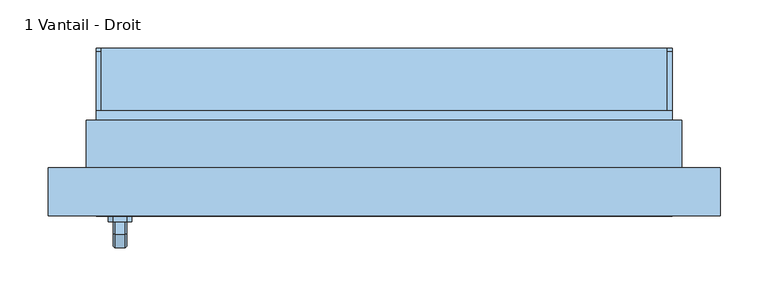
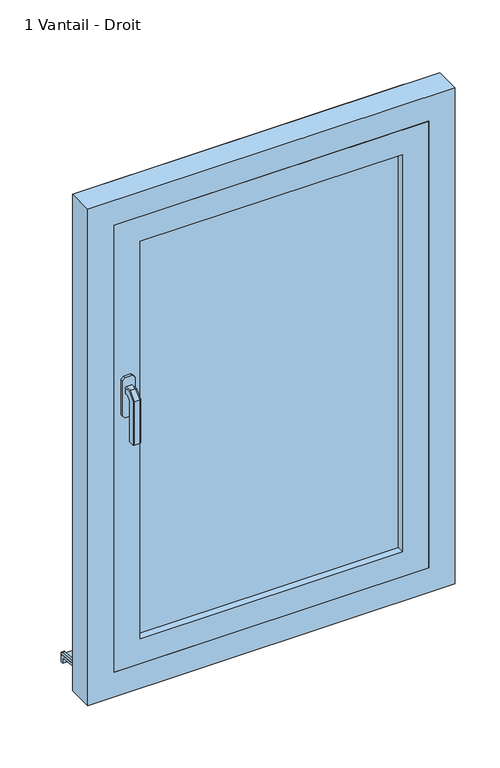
"""IFC4 building model written with IfcOpenShell, lengths in millimetres: window geometry, 1 Vantail - Droit : 0.60 m x 0.95 m - Appui en aluminium."""

from ifc_helpers import new_model, si_unit, point, frame, frame_2d, origin, place, context, project, spatial, polyline, circle_curve, trimmed, segment, composite_curve, outline, extrude, faceted_brep, source, transform, mapped, element, save


def window_1_vantail_droit_98c18ad5(model_context):
    return source(origin(), model_context, "Body", "SolidModel", [
        faceted_brep([(-269.3539903, -86.0, 1422.0339292), (-267.9660708, -86.0, 1420.6460097), (-267.9660708, -86.0, 1409.3323012), (-269.3323012, -86.0, 1407.9660708), (-280.6676988, -86.0, 1407.9660708), (-282.0339292, -86.0, 1409.3323012), (-282.0339292, -86.0, 1420.6460097), (-280.6460097, -86.0, 1422.0339292), (-269.3539903, -98.9135489, 1422.0339292), (-267.9660708, -98.3386538, 1420.6460097), (-267.9660708, -111.6460097, 1407.3386538), (-267.9660708, -111.6460097, 1320.0), (-267.9660708, -100.3323012, 1320.0), (-267.9660708, -100.3323012, 1402.6523623), (-267.9660708, -93.6523623, 1409.3323012), (-269.3323012, -93.0864511, 1407.9660708), (-280.6676988, -93.0864511, 1407.9660708), (-282.0339292, -93.6523623, 1409.3323012), (-282.0339292, -100.3323012, 1402.6523623), (-282.0339292, -100.3323012, 1320.0), (-282.0339292, -111.6460097, 1320.0), (-282.0339292, -111.6460097, 1407.3386538), (-282.0339292, -98.3386538, 1420.6460097), (-280.6460097, -98.9135489, 1422.0339292), (-269.3539903, -113.0339292, 1407.9135489), (-269.3323012, -98.9660708, 1402.0864511), (-280.6676988, -98.9660708, 1402.0864511), (-280.6460097, -113.0339292, 1407.9135489), (-269.3539903, -113.0339292, 1320.0), (-280.6460097, -113.0339292, 1320.0), (-280.6676988, -98.9660708, 1320.0), (-269.3323012, -98.9660708, 1320.0)], [[[0, 1, 2, 3, 4, 5, 6, 7]], [[1, 0, 8, 9]], [[2, 1, 9, 10, 11, 12, 13, 14]], [[3, 2, 14, 15]], [[4, 3, 15, 16]], [[5, 4, 16, 17]], [[6, 5, 17, 18, 19, 20, 21, 22]], [[7, 6, 22, 23]], [[0, 7, 23, 8]], [[9, 8, 24, 10]], [[15, 14, 13, 25]], [[16, 15, 25, 26]], [[17, 16, 26, 18]], [[23, 22, 21, 27]], [[8, 23, 27, 24]], [[28, 29, 20, 19, 30, 31, 12, 11]], [[10, 24, 28, 11]], [[25, 13, 12, 31]], [[26, 25, 31, 30]], [[18, 26, 30, 19]], [[27, 21, 20, 29]], [[24, 27, 29, 28]]]),
        extrude(outline(polyline([(1440.0, -268.0), (1440.0, -282.0), (1435.0, -287.0), (1365.0, -287.0), (1360.0, -282.0), (1360.0, -268.0), (1365.0, -263.0), (1435.0, -263.0), (1440.0, -268.0)])), frame((0.0, -86.0, 0.0), z_axis=(0.0, 1.0, 0.0), x_axis=(0.0, 0.0, 1.0)), (0.0, 0.0, 1.0), 6.0),
        extrude(outline(polyline([(95.0, 780.2703094), (95.0, 764.7145929), (90.0, 765.2401141), (90.0, 775.5406188), (0.0, 785.0), (0.0, 800.0), (5.0, 800.0), (5.0, 789.7296906), (95.0, 780.2703094)])), frame((-300.0, 0.0, 0.0), z_axis=(1.0, 0.0, 0.0), x_axis=(0.0, 1.0, 0.0)), (0.0, 0.0, 1.0), 600.0),
        extrude(outline(composite_curve([segment(polyline([(95.0, 780.2703094), (5.0, 789.7296906), (5.0, 794.757232), (91.4181139, 785.6743222)]), True, "CONTINUOUS"), segment(trimmed(circle_curve(frame_2d((91.0, 781.6962346)), 4.0), [point((91.4181139, 785.6743222))], [point((95.0, 781.6962346))], False, "CARTESIAN"), True, "CONTINUOUS"), segment(polyline([(95.0, 781.6962346), (95.0, 780.2703094)]), True, "CONTINUOUS")], self_intersect=False)), frame((-300.0, 0.0, 0.0), z_axis=(1.0, 0.0, 0.0), x_axis=(0.0, 1.0, 0.0)), (0.0, 0.0, 1.0), 5.0),
        extrude(outline(composite_curve([segment(polyline([(95.0, 780.2703094), (5.0, 789.7296906), (5.0, 794.757232), (91.4181139, 785.6743222)]), True, "CONTINUOUS"), segment(trimmed(circle_curve(frame_2d((91.0, 781.6962346)), 4.0), [point((91.4181139, 785.6743222))], [point((95.0, 781.6962346))], False, "CARTESIAN"), True, "CONTINUOUS"), segment(polyline([(95.0, 781.6962346), (95.0, 780.2703094)]), True, "CONTINUOUS")], self_intersect=False)), frame((295.0, 0.0, 0.0), z_axis=(1.0, 0.0, 0.0), x_axis=(0.0, 1.0, 0.0)), (0.0, 0.0, 1.0), 5.0),
        extrude(outline(polyline([(-250.0, -54.0), (250.0, -54.0), (250.0, -66.0), (-250.0, -66.0), (-250.0, -54.0)])), frame((0.0, 0.0, 900.0), z_axis=(0.0, 0.0, 1.0), x_axis=(1.0, 0.0, 0.0)), (0.0, 0.0, 1.0), 800.0),
        extrude(outline(polyline([(850.0, 300.0), (1750.0, 300.0), (1750.0, -300.0), (850.0, -300.0), (850.0, 300.0)]), holes=[polyline([(900.0, -250.0), (1700.0, -250.0), (1700.0, 250.0), (900.0, 250.0), (900.0, -250.0)])]), frame((0.0, -80.0, 0.0), z_axis=(0.0, 1.0, 0.0), x_axis=(0.0, 0.0, 1.0)), (0.0, 0.0, 1.0), 40.0),
        faceted_brep([(-350.0, -80.0, 800.0), (-350.0, -30.0, 800.0), (-300.0, -30.0, 800.0), (-300.0, 20.0, 800.0), (300.0, 20.0, 800.0), (300.0, -30.0, 800.0), (350.0, -30.0, 800.0), (350.0, -80.0, 800.0), (-350.0, -80.0, 1800.0), (-350.0, -30.0, 1800.0), (350.0, -30.0, 1800.0), (300.0, -30.0, 839.3761425), (-300.0, -30.0, 839.3761425), (-285.0, -30.0, 1735.0), (-285.0, -30.0, 865.0), (285.0, -30.0, 865.0), (285.0, -30.0, 1735.0), (-300.0, 30.0, 823.2991909), (-300.0, 30.0, 795.0), (-300.0, 20.0, 795.0), (300.0, 20.0, 795.0), (300.0, 30.0, 795.0), (300.0, 30.0, 823.2991909), (350.0, -80.0, 1800.0), (300.0, -80.0, 1750.0), (300.0, -80.0, 850.0), (-300.0, -80.0, 850.0), (-300.0, -80.0, 1750.0), (-285.0, -40.0, 1735.0), (-285.0, -40.0, 865.0), (285.0, -40.0, 865.0), (285.0, -40.0, 1735.0), (300.0, -40.0, 1750.0), (-300.0, -40.0, 1750.0), (-300.0, -40.0, 850.0), (300.0, -40.0, 850.0)], [[[0, 1, 2, 3, 4, 5, 6, 7]], [[1, 0, 8, 9]], [[1, 9, 10, 6, 5, 11, 12, 2], [13, 14, 15, 16]], [[12, 17, 18, 19, 3, 2]], [[3, 19, 20, 4]], [[4, 20, 21, 22, 11, 5]], [[6, 10, 23, 7]], [[0, 7, 23, 8], [24, 25, 26, 27]], [[13, 28, 29, 14]], [[29, 30, 15, 14]], [[31, 16, 15, 30]], [[17, 12, 11, 22]], [[32, 33, 34, 35], [28, 31, 30, 29]], [[34, 33, 27, 26]], [[26, 25, 35, 34]], [[24, 32, 35, 25]], [[18, 17, 22, 21]], [[19, 18, 21, 20]], [[13, 16, 31, 28]], [[33, 32, 24, 27]], [[10, 9, 8, 23]]]),
        extrude(outline(polyline([(800.0, -310.0), (800.0, -300.0), (1750.0, -300.0), (1750.0, 300.0), (800.0, 300.0), (800.0, 310.0), (1760.0, 310.0), (1760.0, -310.0), (800.0, -310.0)])), frame((0.0, -30.0, 0.0), z_axis=(0.0, 1.0, 0.0), x_axis=(0.0, 0.0, 1.0)), (0.0, 0.0, 1.0), 50.0),
    ])


if __name__ == "__main__":
    model = new_model("IFC4")
    model_context = context("Model", 3, world=origin())
    ifc_project = project(units=[si_unit("LENGTHUNIT", "METRE", prefix="MILLI")], contexts=[model_context])
    site = spatial("IfcSite", under=ifc_project)
    building = spatial("IfcBuilding", under=site)
    placement = place(None, origin())
    window_1_vantail_droit_shape = window_1_vantail_droit_98c18ad5(model_context)
    element("IfcWindow", 1, ObjectType="1 Vantail - Droit : 0.60 m x 0.95 m - Appui en aluminium", at=placement, inside=building, context=model_context, shape_type="MappedRepresentation", body=[
        mapped(window_1_vantail_droit_shape, transform((0.0, 0.0, 0.0), x_axis=(1.0, 0.0, 0.0), y_axis=(0.0, 1.0, 0.0), z_axis=(0.0, 0.0, 1.0))),
    ])
    save(model, "model.ifc")
